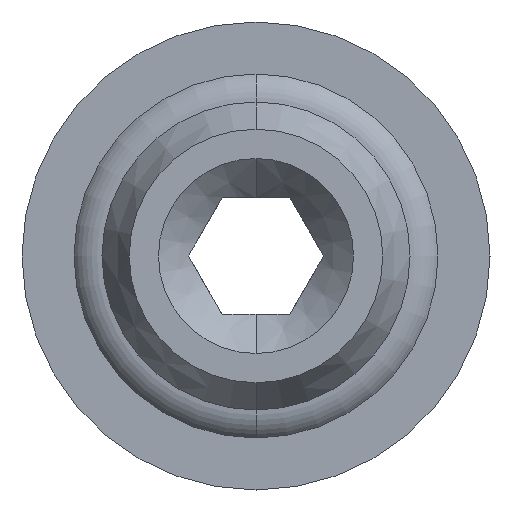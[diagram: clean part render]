
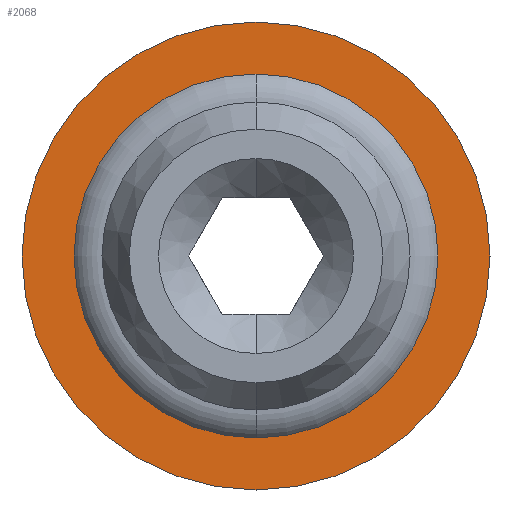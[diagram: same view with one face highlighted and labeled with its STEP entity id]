
A CAD part, front view. The second image highlights one B-rep face of the part: STEP entity #2068.
In plain terms, the highlighted planar face has unit normal (0, -1, 0).
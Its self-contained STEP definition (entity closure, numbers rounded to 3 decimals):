
#6 = EDGE_CURVE ( 'NONE', #661, #2020, #2309, .T. ) ;
#26 = DIRECTION ( 'NONE',  ( 0., 0., -1. ) ) ;
#46 = CARTESIAN_POINT ( 'NONE',  ( 0., 5.4, 6. ) ) ;
#72 = EDGE_CURVE ( 'NONE', #2020, #661, #3358, .T. ) ;
#128 = PLANE ( 'NONE',  #1276 ) ;
#224 = CARTESIAN_POINT ( 'NONE',  ( 0., 5.4, -4.666 ) ) ;
#299 = EDGE_LOOP ( 'NONE', ( #1697, #2069 ) ) ;
#344 = VERTEX_POINT ( 'NONE', #224 ) ;
#446 = AXIS2_PLACEMENT_3D ( 'NONE', #2646, #1623, #26 ) ;
#509 = AXIS2_PLACEMENT_3D ( 'NONE', #1583, #3165, #2073 ) ;
#661 = VERTEX_POINT ( 'NONE', #46 ) ;
#1196 = CARTESIAN_POINT ( 'NONE',  ( 0., 5.4, 0. ) ) ;
#1216 = DIRECTION ( 'NONE',  ( 0., -1., 0. ) ) ;
#1276 = AXIS2_PLACEMENT_3D ( 'NONE', #1683, #1963, #2490 ) ;
#1520 = FACE_OUTER_BOUND ( 'NONE', #299, .T. ) ;
#1583 = CARTESIAN_POINT ( 'NONE',  ( 0., 5.4, 0. ) ) ;
#1607 = EDGE_LOOP ( 'NONE', ( #2902, #2493 ) ) ;
#1623 = DIRECTION ( 'NONE',  ( 0., -1., 0. ) ) ;
#1644 = CARTESIAN_POINT ( 'NONE',  ( 0., 5.4, -6. ) ) ;
#1653 = CARTESIAN_POINT ( 'NONE',  ( 0., 5.4, 0. ) ) ;
#1683 = CARTESIAN_POINT ( 'NONE',  ( 5.663, 5.4, 0. ) ) ;
#1697 = ORIENTED_EDGE ( 'NONE', *, *, #72, .T. ) ;
#1785 = AXIS2_PLACEMENT_3D ( 'NONE', #1196, #1216, #2261 ) ;
#1915 = VERTEX_POINT ( 'NONE', #3234 ) ;
#1963 = DIRECTION ( 'NONE',  ( 0., 1., 0. ) ) ;
#2020 = VERTEX_POINT ( 'NONE', #1644 ) ;
#2068 = ADVANCED_FACE ( 'NONE', ( #1520, #2852 ), #128, .F. ) ;
#2069 = ORIENTED_EDGE ( 'NONE', *, *, #6, .T. ) ;
#2073 = DIRECTION ( 'NONE',  ( 0., 0., -1. ) ) ;
#2261 = DIRECTION ( 'NONE',  ( 0., 0., 1. ) ) ;
#2309 = CIRCLE ( 'NONE', #446, 6. ) ;
#2424 = DIRECTION ( 'NONE',  ( 0., -1., 0. ) ) ;
#2442 = CIRCLE ( 'NONE', #2509, 4.666 ) ;
#2444 = EDGE_CURVE ( 'NONE', #344, #1915, #3011, .T. ) ;
#2490 = DIRECTION ( 'NONE',  ( 0., 0., 1. ) ) ;
#2493 = ORIENTED_EDGE ( 'NONE', *, *, #2790, .F. ) ;
#2509 = AXIS2_PLACEMENT_3D ( 'NONE', #1653, #2424, #2701 ) ;
#2646 = CARTESIAN_POINT ( 'NONE',  ( 0., 5.4, 0. ) ) ;
#2701 = DIRECTION ( 'NONE',  ( 0., 0., 1. ) ) ;
#2790 = EDGE_CURVE ( 'NONE', #1915, #344, #2442, .T. ) ;
#2852 = FACE_BOUND ( 'NONE', #1607, .T. ) ;
#2902 = ORIENTED_EDGE ( 'NONE', *, *, #2444, .F. ) ;
#3011 = CIRCLE ( 'NONE', #1785, 4.666 ) ;
#3165 = DIRECTION ( 'NONE',  ( 0., -1., 0. ) ) ;
#3234 = CARTESIAN_POINT ( 'NONE',  ( 0., 5.4, 4.666 ) ) ;
#3358 = CIRCLE ( 'NONE', #509, 6. ) ;
